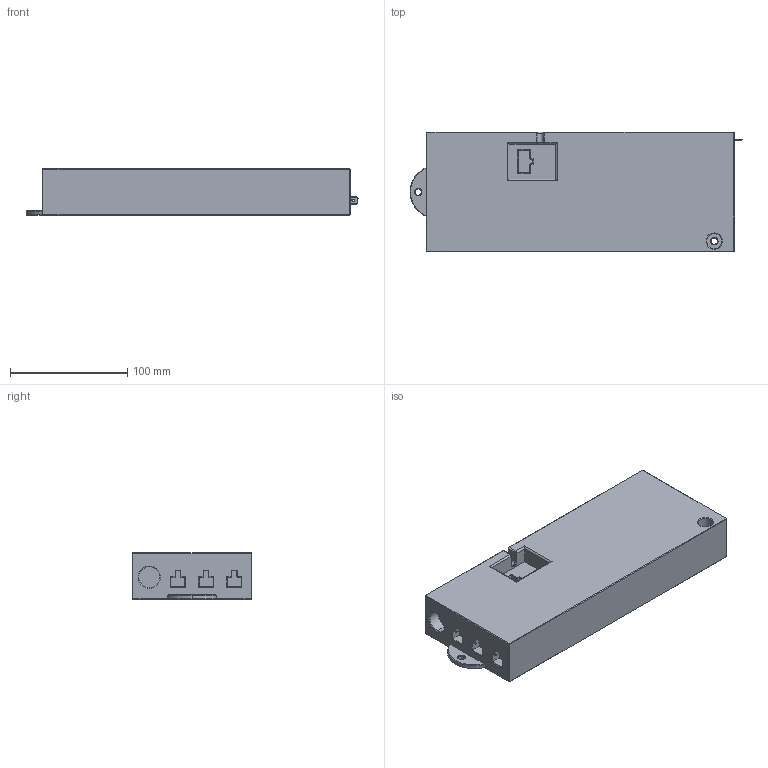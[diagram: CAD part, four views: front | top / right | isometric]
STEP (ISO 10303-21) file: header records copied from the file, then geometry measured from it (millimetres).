
FILE_DESCRIPTION (( 'STEP AP203' ), '1' );
FILE_NAME ('124.00139_Steuerung_compact-3-eco_110V_01.STEP', '2018-11-27T16:29:35', ( '' ), ( '' ), 'SwSTEP 2.0', 'SolidWorks 2015', '' );
FILE_SCHEMA (( 'CONFIG_CONTROL_DESIGN' ));
Length unit declared in the file: inch
Products named in the file (2): 124.00139_Steuerung_compact-3-eco_110V_01
Bounding box: 283.7 x 102 x 40 mm (x, y, z)
Volume: 1040823.3 mm3; surface area: 89902.6 mm2
Topology: 1 solids, 1 shells, 202 faces, 449 edges, 255 vertices
Faces by surface type: plane 155, cylinder 22, cone 19, bspline 4, torus 2
Entity records: 5622 total; most frequent: CARTESIAN_POINT 1073, ORIENTED_EDGE 894, DIRECTION 888, EDGE_CURVE 447, LINE 378, VECTOR 378, VERTEX_POINT 255, AXIS2_PLACEMENT_3D 255
